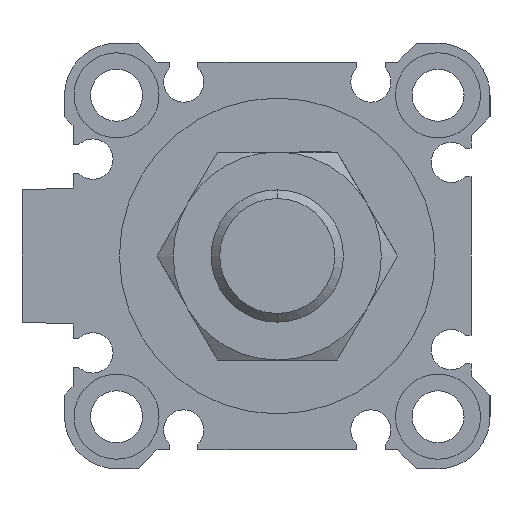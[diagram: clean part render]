
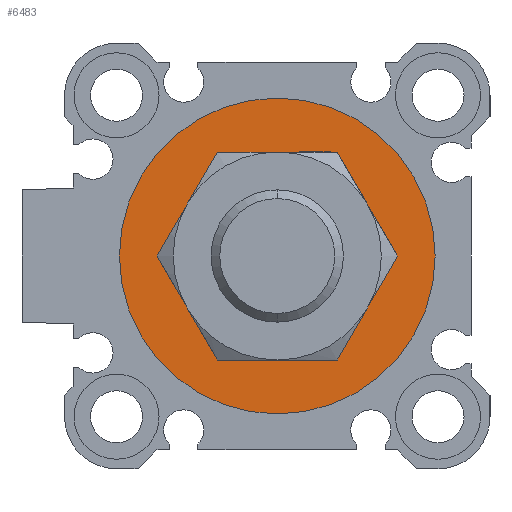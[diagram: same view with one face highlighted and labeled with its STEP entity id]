
A CAD part, left-side view. The second image highlights one B-rep face of the part: STEP entity #6483.
In plain terms, the highlighted planar face has unit normal (-1, 0, 0).
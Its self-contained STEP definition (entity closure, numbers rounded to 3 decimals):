
#67 = AXIS2_PLACEMENT_3D ( 'NONE', #154, #2313, #4508 ) ;
#154 = CARTESIAN_POINT ( 'NONE',  ( 2.1, 0., 0. ) ) ;
#328 = CARTESIAN_POINT ( 'NONE',  ( 2.1, 0., 0. ) ) ;
#360 = EDGE_CURVE ( 'NONE', #1998, #1616, #840, .T. ) ;
#446 = DIRECTION ( 'NONE',  ( 0., 0., -1. ) ) ;
#537 = CARTESIAN_POINT ( 'NONE',  ( 2.1, 0., 10.5 ) ) ;
#713 = EDGE_CURVE ( 'NONE', #1616, #1998, #3509, .T. ) ;
#813 = CARTESIAN_POINT ( 'NONE',  ( 2.1, 0., -10.5 ) ) ;
#840 = CIRCLE ( 'NONE', #1743, 16.7 ) ;
#1155 = VERTEX_POINT ( 'NONE', #813 ) ;
#1323 = EDGE_CURVE ( 'NONE', #2860, #1155, #5524, .T. ) ;
#1327 = ORIENTED_EDGE ( 'NONE', *, *, #713, .F. ) ;
#1607 = CARTESIAN_POINT ( 'NONE',  ( 2.1, 0., 16.7 ) ) ;
#1616 = VERTEX_POINT ( 'NONE', #1607 ) ;
#1743 = AXIS2_PLACEMENT_3D ( 'NONE', #4052, #3551, #4675 ) ;
#1815 = AXIS2_PLACEMENT_3D ( 'NONE', #328, #4613, #5640 ) ;
#1998 = VERTEX_POINT ( 'NONE', #6973 ) ;
#2177 = ORIENTED_EDGE ( 'NONE', *, *, #4625, .T. ) ;
#2313 = DIRECTION ( 'NONE',  ( 1., 0., 0. ) ) ;
#2480 = DIRECTION ( 'NONE',  ( 0., 0., -1. ) ) ;
#2860 = VERTEX_POINT ( 'NONE', #537 ) ;
#2882 = FACE_BOUND ( 'NONE', #4361, .T. ) ;
#2911 = CARTESIAN_POINT ( 'NONE',  ( 2.1, 0., 0. ) ) ;
#3198 = ORIENTED_EDGE ( 'NONE', *, *, #360, .F. ) ;
#3419 = EDGE_LOOP ( 'NONE', ( #1327, #3198 ) ) ;
#3509 = CIRCLE ( 'NONE', #6333, 16.7 ) ;
#3544 = DIRECTION ( 'NONE',  ( 1., 0., 0. ) ) ;
#3551 = DIRECTION ( 'NONE',  ( 1., 0., 0. ) ) ;
#4052 = CARTESIAN_POINT ( 'NONE',  ( 2.1, 0., 0. ) ) ;
#4277 = AXIS2_PLACEMENT_3D ( 'NONE', #4734, #5298, #446 ) ;
#4361 = EDGE_LOOP ( 'NONE', ( #4947, #2177 ) ) ;
#4508 = DIRECTION ( 'NONE',  ( 0., 0., -1. ) ) ;
#4613 = DIRECTION ( 'NONE',  ( 1., 0., 0. ) ) ;
#4625 = EDGE_CURVE ( 'NONE', #1155, #2860, #5944, .T. ) ;
#4675 = DIRECTION ( 'NONE',  ( 0., 0., -1. ) ) ;
#4734 = CARTESIAN_POINT ( 'NONE',  ( 2.1, 0., 0. ) ) ;
#4947 = ORIENTED_EDGE ( 'NONE', *, *, #1323, .T. ) ;
#5298 = DIRECTION ( 'NONE',  ( 1., 0., 0. ) ) ;
#5524 = CIRCLE ( 'NONE', #4277, 10.5 ) ;
#5572 = FACE_OUTER_BOUND ( 'NONE', #3419, .T. ) ;
#5640 = DIRECTION ( 'NONE',  ( 0., 1., 0. ) ) ;
#5944 = CIRCLE ( 'NONE', #67, 10.5 ) ;
#6333 = AXIS2_PLACEMENT_3D ( 'NONE', #2911, #3544, #2480 ) ;
#6483 = ADVANCED_FACE ( 'NONE', ( #5572, #2882 ), #6674, .F. ) ;
#6674 = PLANE ( 'NONE',  #1815 ) ;
#6973 = CARTESIAN_POINT ( 'NONE',  ( 2.1, 0., -16.7 ) ) ;
